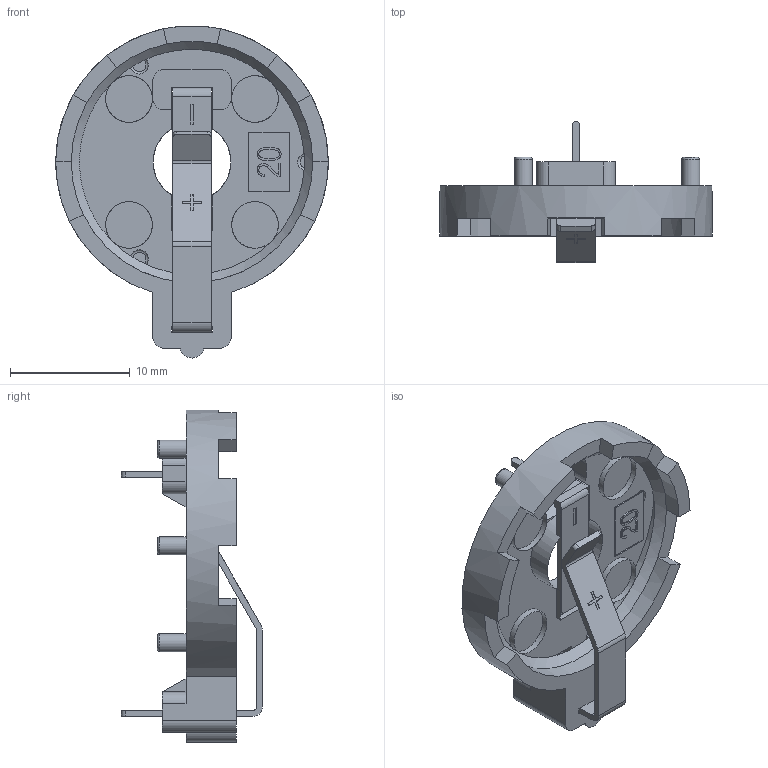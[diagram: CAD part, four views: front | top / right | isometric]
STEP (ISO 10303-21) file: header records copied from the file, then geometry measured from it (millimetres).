
FILE_DESCRIPTION(('FreeCAD Model'),'2;1');
FILE_NAME('C:/Users/Metaltex-99/Desktop/SB-19.stp','2021-04-28T10:08:05' ,('Engenharia Metaltex'),('Metaltex'), 'Open CASCADE STEP processor 7.3','FreeCAD','Unknown');
FILE_SCHEMA(('AUTOMOTIVE_DESIGN { 1 0 10303 214 1 1 1 1 }'));
Length unit declared in the file: millimetre
Products named in the file (1): SB-19
Bounding box: 22.8 x 11.8 x 27.77 mm (x, y, z)
Volume: 1157.2 mm3; surface area: 1777.9 mm2
Topology: 3 solids, 3 shells, 163 faces, 426 edges, 277 vertices
Faces by surface type: plane 118, cylinder 37, bspline 4, torus 3, cone 1
Full cylindrical faces by diameter (mm): 1.5 x3, 3.9 x4, 6.5 x1
Entity records: 11003 total; most frequent: CARTESIAN_POINT 2593, DIRECTION 1508, LINE 914, VECTOR 914, ORIENTED_EDGE 852, PCURVE 852, DEFINITIONAL_REPRESENTATION 852, EDGE_CURVE 426
